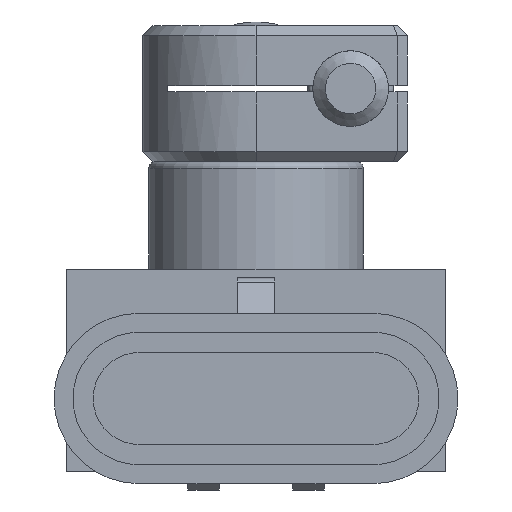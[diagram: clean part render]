
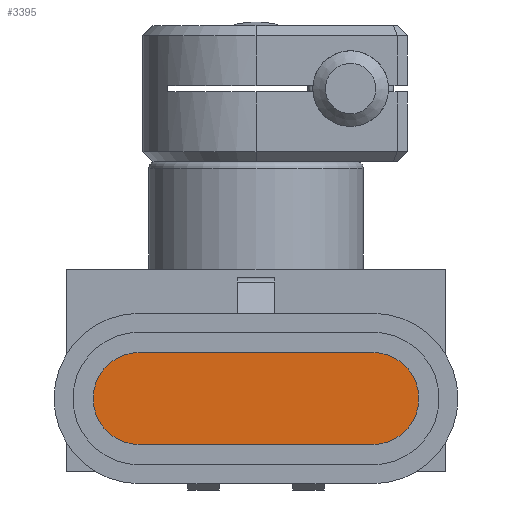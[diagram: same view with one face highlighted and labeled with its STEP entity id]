
A CAD part, front view. The second image highlights one B-rep face of the part: STEP entity #3395.
In plain terms, the highlighted planar face has unit normal (0, -1, 0) as drawn and (0, 0, -1) by its records, which use the part's own axes.
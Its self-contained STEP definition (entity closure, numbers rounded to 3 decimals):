
#144=LINE('',#5205,#482);
#148=LINE('',#5217,#486);
#482=VECTOR('',#4199,18.5);
#486=VECTOR('',#4211,18.5);
#747=PLANE('',#3652);
#936=FACE_OUTER_BOUND('',#1145,.T.);
#1145=EDGE_LOOP('',(#2523,#2524,#2525,#2526));
#1353=CIRCLE('',#3647,3.65);
#1355=CIRCLE('',#3651,3.65);
#1550=VERTEX_POINT('',#5202);
#1551=VERTEX_POINT('',#5204);
#1553=VERTEX_POINT('',#5210);
#1555=VERTEX_POINT('',#5216);
#1911=EDGE_CURVE('',#1551,#1550,#144,.T.);
#1914=EDGE_CURVE('',#1553,#1551,#1353,.T.);
#1917=EDGE_CURVE('',#1555,#1553,#148,.T.);
#1920=EDGE_CURVE('',#1550,#1555,#1355,.T.);
#2523=ORIENTED_EDGE('',*,*,#1914,.T.);
#2524=ORIENTED_EDGE('',*,*,#1911,.T.);
#2525=ORIENTED_EDGE('',*,*,#1920,.T.);
#2526=ORIENTED_EDGE('',*,*,#1917,.T.);
#3395=ADVANCED_FACE('',(#936),#747,.F.);
#3647=AXIS2_PLACEMENT_3D('',#5211,#4205,#4206);
#3651=AXIS2_PLACEMENT_3D('',#5221,#4217,#4218);
#3652=AXIS2_PLACEMENT_3D('',#5222,#4219,#4220);
#4199=DIRECTION('',(1.,0.,0.));
#4205=DIRECTION('center_axis',(0.,0.,-1.));
#4206=DIRECTION('ref_axis',(1.,0.,0.));
#4211=DIRECTION('',(-1.,0.,0.));
#4217=DIRECTION('center_axis',(0.,0.,-1.));
#4218=DIRECTION('ref_axis',(1.,0.,0.));
#4219=DIRECTION('center_axis',(0.,0.,1.));
#4220=DIRECTION('ref_axis',(1.,0.,0.));
#5202=CARTESIAN_POINT('',(9.25,-2.1,-60.5));
#5204=CARTESIAN_POINT('',(-9.25,-2.1,-60.5));
#5205=CARTESIAN_POINT('',(-9.25,-2.1,-60.5));
#5210=CARTESIAN_POINT('',(-9.25,-9.4,-60.5));
#5211=CARTESIAN_POINT('Origin',(-9.25,-5.75,-60.5));
#5216=CARTESIAN_POINT('',(9.25,-9.4,-60.5));
#5217=CARTESIAN_POINT('',(9.25,-9.4,-60.5));
#5221=CARTESIAN_POINT('Origin',(9.25,-5.75,-60.5));
#5222=CARTESIAN_POINT('Origin',(-9.25,-5.75,-60.5));
